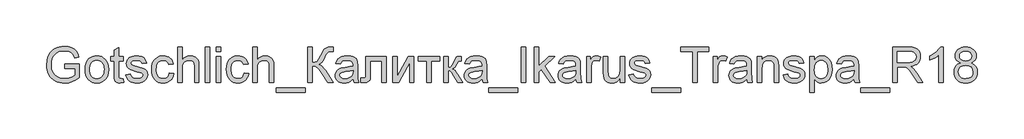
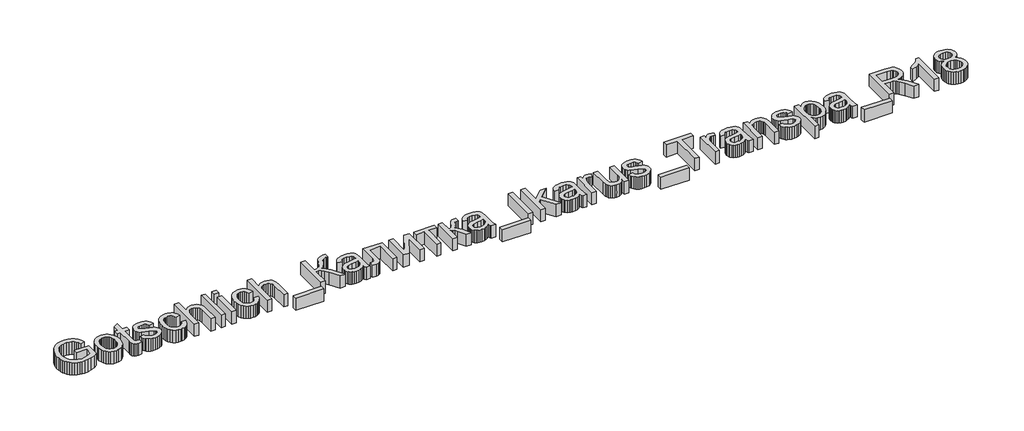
# One storey, part 2 of 6: 1 proxy.
"""IFC4 building model written with IfcOpenShell, lengths in millimetres."""

from ifc_helpers import new_model, si_unit, origin, origin_with_axes, place, context, project, spatial, polyline, outline, extrude, element, save

model = new_model("IFC4")

# Units and contexts
model_context = context("Model", 3, world=origin())
ifc_project = project(units=[si_unit("LENGTHUNIT", "METRE", prefix="MILLI")], contexts=[model_context])

# Site, building, storey
site = spatial("IfcSite", under=ifc_project)
building = spatial("IfcBuilding", under=site)
storey = spatial("IfcBuildingStorey", under=building, Name="Уровень 1", Elevation=0.0)

# Proxy
placement = place(None, origin())
element("IfcBuildingElementProxy", 1, Name="600 мм Arial", ObjectType="600 мм Arial", at=placement, inside=storey, context=model_context, shape_type="SweptSolid", body=[
    extrude(outline(polyline([(16245.4762202, -854.406138), (16245.4762202, -804.1779829), (16408.7177242, -804.1779829), (16408.7177242, -954.3719388), (16369.0477824, -981.9630884), (16328.1270418, -1001.7551398), (16286.0536043, -1013.6745164), (16242.9255717, -1017.647642), (16214.0744263, -1016.0688151), (16186.5783128, -1011.3323344), (16160.4372314, -1003.4381999), (16135.6511819, -992.3864116), (16113.0203079, -978.3425165), (16093.3447525, -961.4720613), (16076.6245158, -941.7750462), (16062.8595978, -919.251471), (16052.1082465, -894.6217714), (16044.4287099, -868.606383), (16039.8209879, -841.2053057), (16038.2850806, -812.4185396), (16044.4041844, -755.826026), (16052.0530642, -729.0104942), (16062.761496, -703.1821125), (16076.3394073, -679.4751836), (16092.5967258, -659.0240103), (16111.5334515, -641.8285928), (16133.1495844, -627.8889308), (16156.9760749, -617.1161197), (16182.5438736, -609.4212547), (16209.8529804, -604.8043356), (16238.9033953, -603.2653626), (16280.277857, -606.833818), (16317.4829894, -617.539184), (16348.8142727, -634.6089086), (16372.5671868, -657.2704395), (16390.1396835, -686.61516), (16402.9297142, -723.7344533), (16356.6256337, -736.7820014), (16346.2881497, -710.3067605), (16333.7188482, -690.3307681), (16317.090582, -675.2721318), (16294.5762039, -663.5489589), (16267.733081, -656.007378), (16238.1185803, -653.4935177), (16203.4518337, -656.2035817), (16173.8128076, -664.3337738), (16149.3118667, -676.8662871), (16130.0593756, -692.7833148), (16115.2827821, -711.2632537), (16104.2095341, -731.4845007), (16092.4373102, -769.4008716), (16088.5132356, -810.3584004), (16093.2343879, -858.3915263), (16107.3978447, -897.9143153), (16130.5744104, -928.6447246), (16162.3348893, -950.3007114), (16199.5032336, -963.139793), (16238.9033953, -967.4194869), (16273.6927693, -964.1943881), (16307.623752, -954.5190916), (16337.0910998, -941.1895006), (16358.4895692, -927.0015184), (16358.4895692, -854.406138), (16245.4762202, -854.406138)])), origin_with_axes(), (0.0, 0.0, 1.0), 150.0),
    extrude(outline(polyline([(16471.5029181, -863.8239171), (16474.2191135, -825.6071091), (16482.3676997, -792.6755392), (16495.9486767, -765.0292073), (16514.9620444, -742.6681133), (16534.1041709, -728.3758978), (16555.2328602, -718.1671724), (16578.3481122, -712.0419372), (16603.449927, -710.0001921), (16631.1606383, -712.4864613), (16656.2164679, -719.9452687), (16678.6174157, -732.3766145), (16698.3634818, -749.7804986), (16714.4797788, -771.5683097), (16725.9914196, -797.1514368), (16732.8984041, -826.5298798), (16735.2007322, -859.7036387), (16731.1295048, -910.4468286), (16718.9158226, -949.0744381), (16698.9153048, -978.0022256), (16671.4835707, -999.6459497), (16638.9014886, -1013.1472189), (16603.449927, -1017.647642), (16575.3345455, -1015.1705699), (16550.045724, -1007.7393536), (16527.5834626, -995.3539931), (16507.9477611, -978.0144884), (16492.0031423, -956.0151451), (16480.6141288, -929.6502687), (16473.7807208, -898.9198594), (16471.5029181, -863.8239171)]), holes=[polyline([(16521.7310732, -863.7258152), (16523.184207, -888.0888003), (16527.5436087, -909.1837671), (16534.8092781, -927.0107154), (16544.9812152, -941.5696454), (16557.354313, -952.878951), (16571.2234642, -960.9570265), (16586.5886689, -965.8038718), (16603.449927, -967.4194869), (16620.225346, -965.7946748), (16635.529237, -960.9202383), (16649.3616, -952.7961776), (16661.7224351, -941.4224926), (16671.8943722, -926.7194755), (16679.1600416, -908.6074186), (16683.5194433, -887.0863219), (16684.9725771, -862.1561853), (16683.5102462, -838.5657524), (16679.1232534, -818.0226087), (16671.8115988, -800.5267541), (16661.5752823, -786.0781887), (16649.168462, -774.7688831), (16635.345296, -766.6908076), (16620.1057843, -761.8439623), (16603.449927, -760.2283472), (16586.5886689, -761.8378309), (16571.2234642, -766.6662821), (16557.354313, -774.7137008), (16544.9812152, -785.9800869), (16534.8092781, -800.4960973), (16527.5436087, -818.2923888), (16523.184207, -839.3689614), (16521.7310732, -863.7258152)])]), origin_with_axes(), (0.0, 0.0, 1.0), 150.0),
    extrude(outline(polyline([(16898.4422362, -969.4796261), (16904.7207556, -1012.8406506), (16867.1477412, -1017.647642), (16843.0392077, -1015.5629773), (16825.0620409, -1009.3089834), (16812.3578493, -999.6704751), (16804.0682417, -987.4322674), (16799.506505, -966.4139428), (16797.9859261, -930.4350837), (16797.9859261, -766.5068666), (16760.3148098, -766.5068666), (16760.3148098, -716.2787115), (16797.9859261, -716.2787115), (16797.9859261, -644.5662479), (16848.2140811, -615.0375865), (16848.2140811, -716.2787115), (16898.4422362, -716.2787115), (16898.4422362, -766.5068666), (16848.2140811, -766.5068666), (16848.2140811, -928.9635557), (16850.8628315, -954.8624481), (16859.4467447, -964.0349725), (16876.5655202, -967.4194869), (16898.4422362, -969.4796261)])), origin_with_axes(), (0.0, 0.0, 1.0), 150.0),
    extrude(outline(polyline([(16929.8348331, -923.4698512), (16980.0629882, -917.1913318), (16987.9847138, -938.6756403), (17003.3131303, -954.4700407), (17026.1463395, -964.1821253), (17056.5824432, -967.4194869), (17086.6506649, -964.4519055), (17107.7916169, -955.5491612), (17120.2996048, -942.6487659), (17124.4689341, -927.6882314), (17120.2750793, -914.885938), (17107.6935151, -905.1248024), (17055.993832, -890.80193), (16980.3572938, -866.2274128), (16961.2151673, -853.8788405), (16947.3460161, -837.5326171), (16938.9215184, -818.2310751), (16936.1133525, -797.0165467), (16938.3696954, -777.5555892), (16945.1387241, -759.5906851), (16955.807302, -743.833073), (16969.7622923, -730.9939913), (17001.6944495, -716.1315587), (17022.5778841, -711.5330338), (17044.9083212, -710.0001921), (17077.6007679, -712.4650015), (17106.0257834, -719.8594296), (17128.883518, -731.4599752), (17144.8741221, -746.543137), (17155.4691235, -766.2248237), (17162.1400504, -791.6209441), (17111.9118953, -797.8994635), (17105.5720622, -782.0928005), (17093.0272862, -770.1856866), (17074.1549398, -762.7176821), (17048.8323958, -760.2283472), (17019.9904474, -762.6073175), (17000.7624818, -769.7442282), (16989.9467511, -780.044924), (16986.3415076, -791.9152497), (16992.3257214, -806.5324277), (17011.0631777, -817.6179385), (17054.3261003, -828.3110418), (17128.0496521, -851.9535913), (17147.5228724, -863.2598313), (17162.2872032, -878.7354006), (17171.5946176, -898.4293501), (17174.6970891, -922.3907307), (17171.0550574, -947.1614517), (17160.1289621, -970.4606447), (17142.3357363, -990.4611625), (17118.0923128, -1005.3358579), (17088.808906, -1014.5696959), (17055.8957302, -1017.647642), (17028.8625349, -1016.1638513), (17005.2506421, -1011.7124791), (16985.060052, -1004.2935256), (16968.2907644, -993.9069906), (16954.5932914, -980.6019251), (16943.6181452, -964.42738), (16935.3653258, -945.3833554), (16929.8348331, -923.4698512)])), origin_with_axes(), (0.0, 0.0, 1.0), 150.0),
    extrude(outline(polyline([(17419.5593451, -904.6342931), (17469.7875002, -910.9128124), (17464.3244526, -934.61361), (17455.7834589, -955.5859494), (17444.1645192, -973.8298307), (17429.4676335, -989.3452538), (17412.3120698, -1001.7275486), (17393.3170961, -1010.5720449), (17372.4827125, -1015.8787427), (17349.8089188, -1017.647642), (17321.638355, -1015.1797669), (17296.3801904, -1007.7761418), (17274.0344249, -995.4367665), (17254.6010585, -978.1616412), (17238.8710375, -956.2757281), (17227.6353082, -930.1039899), (17220.8938707, -899.6464263), (17218.6467248, -864.9030376), (17222.4849603, -820.2053752), (17233.9996667, -781.4674011), (17253.3747852, -750.1851687), (17280.7942565, -727.8547316), (17313.5970678, -714.463827), (17349.1222058, -710.0001921), (17371.4066576, -711.5330338), (17391.5635253, -716.1315587), (17409.5928087, -723.795767), (17425.494508, -734.5256585), (17438.9988429, -748.0759786), (17449.8360333, -764.2014728), (17458.0060793, -782.9021409), (17463.5089808, -804.1779829), (17413.2808257, -810.4565023), (17404.169615, -788.5429981), (17389.9816327, -772.8344369), (17371.5016938, -763.3798696), (17349.5146132, -760.2283472), (17332.4479543, -761.779583), (17317.0551585, -766.4332902), (17303.3362258, -774.1894689), (17291.2911561, -785.0481192), (17281.4840353, -799.2606269), (17274.478949, -817.0783782), (17270.2758972, -838.5013731), (17268.8748799, -863.5296115), (17274.3563216, -910.6062441), (17281.2081238, -928.5435571), (17290.8006468, -942.7468678), (17302.6065932, -953.5411386), (17316.0986653, -961.2513321), (17331.2768633, -965.8774482), (17348.1411871, -967.4194869), (17374.1504442, -963.5689887), (17395.4753372, -952.017494), (17410.9876946, -932.4706974), (17419.5593451, -904.6342931)])), origin_with_axes(), (0.0, 0.0, 1.0), 150.0),
    extrude(outline(polyline([(17513.7371359, -1011.3691226), (17513.7371359, -609.543882), (17563.965291, -609.543882), (17563.965291, -757.2852913), (17582.414573, -736.5980604), (17603.1324607, -721.8214669), (17626.118954, -712.9555108), (17651.374053, -710.0001921), (17681.7120549, -713.225291), (17707.7826256, -722.9005874), (17728.3104409, -738.2657921), (17742.0201766, -758.5606155), (17749.7456985, -786.4460707), (17752.3208725, -824.5831709), (17752.3208725, -1011.3691226), (17702.0927174, -1011.3691226), (17702.0927174, -829.7825698), (17698.0950664, -798.3409219), (17686.1021134, -776.8075625), (17666.7760459, -764.373151), (17640.7790515, -760.2283472), (17619.5522604, -763.0242504), (17599.625319, -771.4119599), (17583.1196802, -784.5821353), (17572.1567967, -801.7254363), (17566.0131674, -824.5095945), (17563.965291, -854.6023417), (17563.965291, -1011.3691226), (17513.7371359, -1011.3691226)])), origin_with_axes(), (0.0, 0.0, 1.0), 150.0),
    extrude(outline(polyline([(17821.3845857, -1011.3691226), (17821.3845857, -609.543882), (17871.6127408, -609.543882), (17871.6127408, -1011.3691226), (17821.3845857, -1011.3691226)])), origin_with_axes(), (0.0, 0.0, 1.0), 150.0),
    extrude(outline(polyline([(17946.9549734, -659.7720371), (17946.9549734, -609.543882), (17997.1831285, -609.543882), (17997.1831285, -659.7720371), (17946.9549734, -659.7720371)])), origin_with_axes(), (0.0, 0.0, 1.0), 150.0),
    extrude(outline(polyline([(17946.9549734, -1011.3691226), (17946.9549734, -716.2787115), (17997.1831285, -716.2787115), (17997.1831285, -1011.3691226), (17946.9549734, -1011.3691226)])), origin_with_axes(), (0.0, 0.0, 1.0), 150.0),
    extrude(outline(polyline([(18260.8809426, -904.6342931), (18311.1090977, -910.9128124), (18305.6460501, -934.61361), (18297.1050564, -955.5859494), (18285.4861167, -973.8298307), (18270.789231, -989.3452538), (18253.6336673, -1001.7275486), (18234.6386936, -1010.5720449), (18213.80431, -1015.8787427), (18191.1305163, -1017.647642), (18162.9599526, -1015.1797669), (18137.7017879, -1007.7761418), (18115.3560224, -995.4367665), (18095.922656, -978.1616412), (18080.192635, -956.2757281), (18068.9569057, -930.1039899), (18062.2154682, -899.6464263), (18059.9683223, -864.9030376), (18063.8065578, -820.2053752), (18075.3212643, -781.4674011), (18094.6963827, -750.1851687), (18122.115854, -727.8547316), (18154.9186653, -714.463827), (18190.4438033, -710.0001921), (18212.7282551, -711.5330338), (18232.8851228, -716.1315587), (18250.9144062, -723.795767), (18266.8161055, -734.5256585), (18280.3204404, -748.0759786), (18291.1576308, -764.2014728), (18299.3276768, -782.9021409), (18304.8305783, -804.1779829), (18254.6024232, -810.4565023), (18245.4912125, -788.5429981), (18231.3032302, -772.8344369), (18212.8232913, -763.3798696), (18190.8362107, -760.2283472), (18173.7695518, -761.779583), (18158.376756, -766.4332902), (18144.6578233, -774.1894689), (18132.6127536, -785.0481192), (18122.8056328, -799.2606269), (18115.8005465, -817.0783782), (18111.5974947, -838.5013731), (18110.1964774, -863.5296115), (18115.6779191, -910.6062441), (18122.5297213, -928.5435571), (18132.1222443, -942.7468678), (18143.9281907, -953.5411386), (18157.4202628, -961.2513321), (18172.5984608, -965.8774482), (18189.4627846, -967.4194869), (18215.4720417, -963.5689887), (18236.7969347, -952.017494), (18252.3092921, -932.4706974), (18260.8809426, -904.6342931)])), origin_with_axes(), (0.0, 0.0, 1.0), 150.0),
    extrude(outline(polyline([(18355.0587334, -1011.3691226), (18355.0587334, -609.543882), (18405.2868885, -609.543882), (18405.2868885, -757.2852913), (18423.7361705, -736.5980604), (18444.4540582, -721.8214669), (18467.4405515, -712.9555108), (18492.6956505, -710.0001921), (18523.0336524, -713.225291), (18549.1042231, -722.9005874), (18569.6320384, -738.2657921), (18583.3417741, -758.5606155), (18591.067296, -786.4460707), (18593.64247, -824.5831709), (18593.64247, -1011.3691226), (18543.4143149, -1011.3691226), (18543.4143149, -829.7825698), (18539.4166639, -798.3409219), (18527.4237109, -776.8075625), (18508.0976434, -764.373151), (18482.1006491, -760.2283472), (18460.8738579, -763.0242504), (18440.9469165, -771.4119599), (18424.4412777, -784.5821353), (18413.4783942, -801.7254363), (18407.3347649, -824.5095945), (18405.2868885, -854.6023417), (18405.2868885, -1011.3691226), (18355.0587334, -1011.3691226)])), origin_with_axes(), (0.0, 0.0, 1.0), 150.0),
    extrude(outline(polyline([(18618.7565475, -1124.3824715), (18618.7565475, -1074.1543164), (18945.2395555, -1074.1543164), (18945.2395555, -1124.3824715), (18618.7565475, -1124.3824715)])), origin_with_axes(), (0.0, 0.0, 1.0), 150.0),
    extrude(outline(polyline([(18976.6321524, -609.543882), (19026.8603075, -609.543882), (19026.8603075, -785.3424248), (19060.8648666, -782.0192241), (19083.0236254, -772.049622), (19100.9394786, -748.5910134), (19122.2153207, -704.8007933), (19149.9290976, -648.6374753), (19163.2954768, -633.4194235), (19181.3216946, -620.8255965), (19202.7201639, -612.3643106), (19226.203298, -609.543882), (19259.1655247, -610.1324932), (19259.1655247, -660.3606483), (19248.0800139, -660.0663427), (19236.9945032, -659.7720371), (19213.9896157, -662.7886694), (19197.753757, -671.8385665), (19183.7742412, -690.8458029), (19167.9307899, -723.5382496), (19148.4943578, -764.2505237), (19132.3688637, -786.5196471), (19116.4640988, -798.2428201), (19097.6898543, -807.3172426), (19117.1446805, -815.5945875), (19136.4646166, -830.0278244), (19155.6496627, -850.6169534), (19174.6998186, -877.3619745), (19259.1655247, -1011.3691226), (19200.8930167, -1011.3691226), (19129.4748587, -898.1595699), (19101.8959718, -861.849617), (19079.1976527, -839.0531961), (19055.9842988, -827.0234548), (19026.8603075, -823.0135411), (19026.8603075, -1011.3691226), (18976.6321524, -1011.3691226), (18976.6321524, -609.543882)])), origin_with_axes(), (0.0, 0.0, 1.0), 150.0),
    extrude(outline(polyline([(19485.1922226, -973.6980063), (19461.1940537, -994.2748725), (19436.4846464, -1007.7393536), (19410.4999148, -1015.1705699), (19382.6757732, -1017.647642), (19360.3116136, -1016.1577199), (19340.7004376, -1011.6879537), (19323.8422452, -1004.2383433), (19309.7370363, -993.8088887), (19298.5994089, -981.0617776), (19290.6439608, -966.6591974), (19285.8706919, -950.6011484), (19284.2796023, -932.8876303), (19286.683098, -912.0655094), (19293.8935851, -893.1563748), (19305.0158841, -876.969567), (19319.1548154, -864.3144264), (19335.7708189, -854.7494945), (19354.3243341, -847.833313), (19397.7834605, -840.2794694), (19449.139787, -832.3332183), (19484.897917, -823.0135411), (19485.1922226, -811.8299284), (19481.7341318, -789.4136522), (19471.3598595, -774.7474233), (19448.1587684, -763.8581162), (19415.8342037, -760.2283472), (19385.9131348, -762.6441057), (19365.0174375, -769.891381), (19350.7681415, -783.2945483), (19340.7862767, -804.1779829), (19290.5581217, -797.8994635), (19299.2769249, -770.4309412), (19312.2876848, -748.8485308), (19330.8044119, -732.342892), (19356.0411168, -720.1046843), (19386.9064162, -712.5263152), (19422.3089269, -710.0001921), (19456.264435, -712.2320096), (19483.1811343, -718.9274619), (19503.4759577, -728.9951658), (19517.5658381, -741.3437381), (19526.9100408, -756.6108409), (19532.967831, -775.4341364), (19535.4203776, -819.383772), (19535.4203776, -881.8746603), (19537.9710261, -969.1362695), (19547.9774164, -1011.3691226), (19497.7492613, -1011.3691226), (19489.7049084, -993.9069906), (19485.1922226, -973.6980063)]), holes=[polyline([(19485.1922226, -873.2416961), (19451.4451809, -881.6048802), (19404.1600818, -888.643689), (19360.9462101, -896.7861438), (19349.7012837, -902.3534247), (19341.3748879, -910.0298957), (19336.22454, -919.2269455), (19334.5077573, -929.3559631), (19338.247891, -944.2919721), (19349.4682918, -956.5301798), (19367.9237052, -964.6971601), (19393.3688766, -967.4194869), (19420.3468896, -964.4151173), (19444.1856428, -955.4020084), (19463.5117103, -942.1214684), (19476.9516659, -926.3148053), (19482.9113542, -910.0298957), (19484.897917, -887.4664666), (19485.1922226, -873.2416961)])]), origin_with_axes(), (0.0, 0.0, 1.0), 150.0),
    extrude(outline(polyline([(19629.5981684, -716.2787115), (19855.6248662, -716.2787115), (19855.6248662, -1011.074817), (19805.3967112, -1011.074817), (19805.3967112, -766.5068666), (19679.8263235, -766.5068666), (19679.8263235, -907.2830434), (19676.4418091, -972.2264783), (19670.1019761, -986.9294954), (19657.8515056, -999.6459497), (19639.2612021, -1008.4383294), (19613.9018699, -1011.3691226), (19573.0914939, -1008.8184741), (19573.0914939, -961.1409675), (19595.5568211, -961.1409675), (19618.267403, -958.0507588), (19627.3418255, -948.2405722), (19629.5981684, -904.4380893), (19629.5981684, -716.2787115)])), origin_with_axes(), (0.0, 0.0, 1.0), 150.0),
    extrude(outline(polyline([(19930.9670989, -716.2787115), (19981.1952539, -716.2787115), (19981.1952539, -941.3243907), (20104.6074006, -716.2787115), (20169.5508355, -716.2787115), (20169.5508355, -1011.3691226), (20119.3226804, -1011.3691226), (20119.3226804, -787.6968695), (19996.6953487, -1011.3691226), (19930.9670989, -1011.3691226), (19930.9670989, -716.2787115)])), origin_with_axes(), (0.0, 0.0, 1.0), 150.0),
    extrude(outline(polyline([(20219.7789905, -716.2787115), (20458.3627271, -716.2787115), (20458.3627271, -766.5068666), (20364.1849364, -766.5068666), (20364.1849364, -1011.3691226), (20313.9567813, -1011.3691226), (20313.9567813, -766.5068666), (20219.7789905, -766.5068666), (20219.7789905, -716.2787115)])), origin_with_axes(), (0.0, 0.0, 1.0), 150.0),
    extrude(outline(polyline([(20502.3123628, -716.2787115), (20552.5405179, -716.2787115), (20552.5405179, -841.8490992), (20572.9702314, -839.5927563), (20586.1894577, -832.8237276), (20597.8881052, -815.1653918), (20613.7560819, -780.2411278), (20636.6628675, -734.869015), (20646.105172, -725.7087533), (20656.8718517, -720.1046843), (20693.6110003, -716.2787115), (20703.2249831, -716.2787115), (20703.2249831, -766.8011722), (20689.6869257, -766.5068666), (20673.9906272, -767.8312418), (20665.1614594, -771.8043673), (20647.8955311, -804.864696), (20637.2882669, -826.9008275), (20627.6374959, -840.6228259), (20615.9511111, -849.7830876), (20599.2370058, -858.1340089), (20615.1540335, -865.2034745), (20630.9239083, -877.6808055), (20646.5466304, -895.5660019), (20662.0221997, -918.8590635), (20715.7820219, -1011.3691226), (20658.6867362, -1011.3691226), (20606.0060345, -920.8211008), (20591.7812641, -896.7248302), (20579.5185309, -882.5123224), (20567.1331704, -875.5593527), (20552.5405179, -873.2416961), (20552.5405179, -1011.3691226), (20502.3123628, -1011.3691226), (20502.3123628, -716.2787115)])), origin_with_axes(), (0.0, 0.0, 1.0), 150.0),
    extrude(outline(polyline([(20935.5302004, -973.6980063), (20911.5320315, -994.2748725), (20886.8226242, -1007.7393536), (20860.8378926, -1015.1705699), (20833.013751, -1017.647642), (20810.6495914, -1016.1577199), (20791.0384154, -1011.6879537), (20774.180223, -1004.2383433), (20760.0750141, -993.8088887), (20748.9373867, -981.0617776), (20740.9819386, -966.6591974), (20736.2086697, -950.6011484), (20734.6175801, -932.8876303), (20737.0210758, -912.0655094), (20744.2315629, -893.1563748), (20755.3538618, -876.969567), (20769.4927932, -864.3144264), (20786.1087966, -854.7494945), (20804.6623119, -847.833313), (20848.1214383, -840.2794694), (20899.4777648, -832.3332183), (20935.2358948, -823.0135411), (20935.5302004, -811.8299284), (20932.0721096, -789.4136522), (20921.6978373, -774.7474233), (20898.4967462, -763.8581162), (20866.1721815, -760.2283472), (20836.2511126, -762.6441057), (20815.3554153, -769.891381), (20801.1061193, -783.2945483), (20791.1242545, -804.1779829), (20740.8960994, -797.8994635), (20749.6149027, -770.4309412), (20762.6256626, -748.8485308), (20781.1423897, -732.342892), (20806.3790946, -720.1046843), (20837.244394, -712.5263152), (20872.6469046, -710.0001921), (20906.6024128, -712.2320096), (20933.5191121, -718.9274619), (20953.8139355, -728.9951658), (20967.9038159, -741.3437381), (20977.2480186, -756.6108409), (20983.3058088, -775.4341364), (20985.7583554, -819.383772), (20985.7583554, -881.8746603), (20988.3090039, -969.1362695), (20998.3153942, -1011.3691226), (20948.0872391, -1011.3691226), (20940.0428862, -993.9069906), (20935.5302004, -973.6980063)]), holes=[polyline([(20935.5302004, -873.2416961), (20901.7831587, -881.6048802), (20854.4980595, -888.643689), (20811.2841878, -896.7861438), (20800.0392615, -902.3534247), (20791.7128657, -910.0298957), (20786.5625178, -919.2269455), (20784.8457351, -929.3559631), (20788.5858687, -944.2919721), (20799.8062696, -956.5301798), (20818.261683, -964.6971601), (20843.7068544, -967.4194869), (20870.6848673, -964.4151173), (20894.5236206, -955.4020084), (20913.8496881, -942.1214684), (20927.2896437, -926.3148053), (20933.249332, -910.0298957), (20935.2358948, -887.4664666), (20935.5302004, -873.2416961)])]), origin_with_axes(), (0.0, 0.0, 1.0), 150.0),
    extrude(outline(polyline([(21010.872433, -1124.3824715), (21010.872433, -1074.1543164), (21337.355441, -1074.1543164), (21337.355441, -1124.3824715), (21010.872433, -1124.3824715)])), origin_with_axes(), (0.0, 0.0, 1.0), 150.0),
    extrude(outline(polyline([(21375.0265573, -1011.3691226), (21375.0265573, -609.543882), (21425.2547123, -609.543882), (21425.2547123, -1011.3691226), (21375.0265573, -1011.3691226)])), origin_with_axes(), (0.0, 0.0, 1.0), 150.0),
    extrude(outline(polyline([(21519.4325031, -1011.3691226), (21519.4325031, -609.543882), (21569.6606582, -609.543882), (21569.6606582, -825.4660877), (21682.2815996, -716.2787115), (21751.7377203, -716.2787115), (21637.7433527, -826.8395138), (21758.0162397, -1011.3691226), (21699.3513242, -1011.3691226), (21601.7399682, -861.7637779), (21569.6606582, -892.8620692), (21569.6606582, -1011.3691226), (21519.4325031, -1011.3691226)])), origin_with_axes(), (0.0, 0.0, 1.0), 150.0),
    extrude(outline(polyline([(21990.3214569, -973.6980063), (21966.3232881, -994.2748725), (21941.6138808, -1007.7393536), (21915.6291492, -1015.1705699), (21887.8050076, -1017.647642), (21865.440848, -1016.1577199), (21845.829672, -1011.6879537), (21828.9714795, -1004.2383433), (21814.8662707, -993.8088887), (21803.7286433, -981.0617776), (21795.7731951, -966.6591974), (21790.9999263, -950.6011484), (21789.4088366, -932.8876303), (21791.8123323, -912.0655094), (21799.0228194, -893.1563748), (21810.1451184, -876.969567), (21824.2840498, -864.3144264), (21840.9000532, -854.7494945), (21859.4535685, -847.833313), (21902.9126949, -840.2794694), (21954.2690214, -832.3332183), (21990.0271513, -823.0135411), (21990.3214569, -811.8299284), (21986.8633662, -789.4136522), (21976.4890939, -774.7474233), (21953.2880027, -763.8581162), (21920.9634381, -760.2283472), (21891.0423692, -762.6441057), (21870.1466718, -769.891381), (21855.8973759, -783.2945483), (21845.9155111, -804.1779829), (21795.687356, -797.8994635), (21804.4061593, -770.4309412), (21817.4169192, -748.8485308), (21835.9336463, -732.342892), (21861.1703511, -720.1046843), (21892.0356505, -712.5263152), (21927.4381612, -710.0001921), (21961.3936694, -712.2320096), (21988.3103687, -718.9274619), (22008.6051921, -728.9951658), (22022.6950725, -741.3437381), (22032.0392752, -756.6108409), (22038.0970654, -775.4341364), (22040.549612, -819.383772), (22040.549612, -881.8746603), (22043.1002605, -969.1362695), (22053.1066508, -1011.3691226), (22002.8784957, -1011.3691226), (21994.8341427, -993.9069906), (21990.3214569, -973.6980063)]), holes=[polyline([(21990.3214569, -873.2416961), (21956.5744152, -881.6048802), (21909.2893161, -888.643689), (21866.0754444, -896.7861438), (21854.8305181, -902.3534247), (21846.5041223, -910.0298957), (21841.3537743, -919.2269455), (21839.6369917, -929.3559631), (21843.3771253, -944.2919721), (21854.5975262, -956.5301798), (21873.0529396, -964.6971601), (21898.4981109, -967.4194869), (21925.4761239, -964.4151173), (21949.3148772, -955.4020084), (21968.6409447, -942.1214684), (21982.0809002, -926.3148053), (21988.0405886, -910.0298957), (21990.0271513, -887.4664666), (21990.3214569, -873.2416961)])]), origin_with_axes(), (0.0, 0.0, 1.0), 150.0),
    extrude(outline(polyline([(22109.6133252, -1011.3691226), (22109.6133252, -716.2787115), (22153.5629609, -716.2787115), (22153.5629609, -759.9340416), (22169.7988196, -734.6237604), (22184.7593541, -719.7122768), (22199.7689395, -712.4282133), (22216.151951, -710.0001921), (22241.1679267, -713.8752158), (22266.5763098, -725.5002869), (22249.8008909, -770.5290431), (22232.1425551, -762.8035212), (22214.4842193, -760.2283472), (22199.4868966, -762.7054193), (22186.0837293, -770.1366356), (22175.2557359, -781.9579104), (22167.9839351, -797.6051579), (22161.877094, -825.6622914), (22159.8414803, -856.2700734), (22159.8414803, -1011.3691226), (22109.6133252, -1011.3691226)])), origin_with_axes(), (0.0, 0.0, 1.0), 150.0),
    extrude(outline(polyline([(22486.3244883, -1011.3691226), (22486.3244883, -960.6504582), (22468.1511177, -985.5867261), (22446.9856403, -1003.398346), (22422.8280559, -1014.085318), (22395.6783647, -1017.647642), (22371.214212, -1015.1460444), (22348.4423165, -1007.6412517), (22329.3369782, -996.3595372), (22315.8724972, -982.5271742), (22306.8103374, -965.7272297), (22300.9119627, -945.5427709), (22297.9689068, -898.846283), (22297.9689068, -716.2787115), (22348.1970618, -716.2787115), (22348.1970618, -875.2037334), (22351.2382197, -926.4129072), (22358.5590714, -943.4948945), (22371.1038474, -956.4811289), (22388.0386819, -964.6848974), (22408.529709, -967.4194869), (22430.1979586, -964.6235837), (22450.4682565, -956.2358742), (22467.1823618, -943.0289106), (22478.1820335, -925.775245), (22484.2888746, -902.1449582), (22486.3244883, -869.8081308), (22486.3244883, -716.2787115), (22536.5526434, -716.2787115), (22536.5526434, -1011.3691226), (22486.3244883, -1011.3691226)])), origin_with_axes(), (0.0, 0.0, 1.0), 150.0),
    extrude(outline(polyline([(22586.7807984, -923.4698512), (22637.0089535, -917.1913318), (22644.9306791, -938.6756403), (22660.2590956, -954.4700407), (22683.0923048, -964.1821253), (22713.5284085, -967.4194869), (22743.5966302, -964.4519055), (22764.7375822, -955.5491612), (22777.2455701, -942.6487659), (22781.4148994, -927.6882314), (22777.2210446, -914.885938), (22764.6394804, -905.1248024), (22712.9397973, -890.80193), (22637.3032591, -866.2274128), (22618.1611326, -853.8788405), (22604.2919814, -837.5326171), (22595.8674837, -818.2310751), (22593.0593178, -797.0165467), (22595.3156607, -777.5555892), (22602.0846894, -759.5906851), (22612.7532673, -743.833073), (22626.7082576, -730.9939913), (22658.6404148, -716.1315587), (22679.5238494, -711.5330338), (22701.8542865, -710.0001921), (22734.5467332, -712.4650015), (22762.9717487, -719.8594296), (22785.8294833, -731.4599752), (22801.8200874, -746.543137), (22812.4150888, -766.2248237), (22819.0860157, -791.6209441), (22768.8578606, -797.8994635), (22762.5180275, -782.0928005), (22749.9732515, -770.1856866), (22731.1009051, -762.7176821), (22705.7783611, -760.2283472), (22676.9364127, -762.6073175), (22657.7084471, -769.7442282), (22646.8927164, -780.044924), (22643.2874729, -791.9152497), (22649.2716867, -806.5324277), (22668.009143, -817.6179385), (22711.2720656, -828.3110418), (22784.9956174, -851.9535913), (22804.4688377, -863.2598313), (22819.2331685, -878.7354006), (22828.5405829, -898.4293501), (22831.6430544, -922.3907307), (22828.0010227, -947.1614517), (22817.0749274, -970.4606447), (22799.2817016, -990.4611625), (22775.0382781, -1005.3358579), (22745.7548713, -1014.5696959), (22712.8416955, -1017.647642), (22685.8085002, -1016.1638513), (22662.1966074, -1011.7124791), (22642.0060173, -1004.2935256), (22625.2367297, -993.9069906), (22611.5392567, -980.6019251), (22600.5641105, -964.42738), (22592.3112911, -945.3833554), (22586.7807984, -923.4698512)])), origin_with_axes(), (0.0, 0.0, 1.0), 150.0),
    extrude(outline(polyline([(22844.2000932, -1124.3824715), (22844.2000932, -1074.1543164), (23170.6831012, -1074.1543164), (23170.6831012, -1124.3824715), (22844.2000932, -1124.3824715)])), origin_with_axes(), (0.0, 0.0, 1.0), 150.0),
    extrude(outline(polyline([(23302.5320083, -1011.3691226), (23302.5320083, -659.7720371), (23170.6831012, -659.7720371), (23170.6831012, -609.543882), (23484.6090704, -609.543882), (23484.6090704, -659.7720371), (23352.7601633, -659.7720371), (23352.7601633, -1011.3691226), (23302.5320083, -1011.3691226)])), origin_with_axes(), (0.0, 0.0, 1.0), 150.0),
    extrude(outline(polyline([(23534.8372255, -1011.3691226), (23534.8372255, -716.2787115), (23578.7868612, -716.2787115), (23578.7868612, -759.9340416), (23595.0227199, -734.6237604), (23609.9832544, -719.7122768), (23624.9928398, -712.4282133), (23641.3758513, -710.0001921), (23666.3918269, -713.8752158), (23691.8002101, -725.5002869), (23675.0247911, -770.5290431), (23657.3664553, -762.8035212), (23639.7081196, -760.2283472), (23624.7107969, -762.7054193), (23611.3076295, -770.1366356), (23600.4796361, -781.9579104), (23593.2078354, -797.6051579), (23587.1009943, -825.6622914), (23585.0653805, -856.2700734), (23585.0653805, -1011.3691226), (23534.8372255, -1011.3691226)])), origin_with_axes(), (0.0, 0.0, 1.0), 150.0),
    extrude(outline(polyline([(23911.5483885, -973.6980063), (23887.5502197, -994.2748725), (23862.8408124, -1007.7393536), (23836.8560808, -1015.1705699), (23809.0319392, -1017.647642), (23786.6677796, -1016.1577199), (23767.0566036, -1011.6879537), (23750.1984111, -1004.2383433), (23736.0932023, -993.8088887), (23724.9555749, -981.0617776), (23717.0001268, -966.6591974), (23712.2268579, -950.6011484), (23710.6357682, -932.8876303), (23713.0392639, -912.0655094), (23720.249751, -893.1563748), (23731.37205, -876.969567), (23745.5109814, -864.3144264), (23762.1269848, -854.7494945), (23780.6805001, -847.833313), (23824.1396265, -840.2794694), (23875.495953, -832.3332183), (23911.2540829, -823.0135411), (23911.5483885, -811.8299284), (23908.0902978, -789.4136522), (23897.7160255, -774.7474233), (23874.5149344, -763.8581162), (23842.1903697, -760.2283472), (23812.2693008, -762.6441057), (23791.3736034, -769.891381), (23777.1243075, -783.2945483), (23767.1424427, -804.1779829), (23716.9142876, -797.8994635), (23725.6330909, -770.4309412), (23738.6438508, -748.8485308), (23757.1605779, -732.342892), (23782.3972828, -720.1046843), (23813.2625822, -712.5263152), (23848.6650928, -710.0001921), (23882.620601, -712.2320096), (23909.5373003, -718.9274619), (23929.8321237, -728.9951658), (23943.9220041, -741.3437381), (23953.2662068, -756.6108409), (23959.323997, -775.4341364), (23961.7765436, -819.383772), (23961.7765436, -881.8746603), (23964.3271921, -969.1362695), (23974.3335824, -1011.3691226), (23924.1054273, -1011.3691226), (23916.0610743, -993.9069906), (23911.5483885, -973.6980063)]), holes=[polyline([(23911.5483885, -873.2416961), (23877.8013468, -881.6048802), (23830.5162477, -888.643689), (23787.302376, -896.7861438), (23776.0574497, -902.3534247), (23767.7310539, -910.0298957), (23762.580706, -919.2269455), (23760.8639233, -929.3559631), (23764.6040569, -944.2919721), (23775.8244578, -956.5301798), (23794.2798712, -964.6971601), (23819.7250425, -967.4194869), (23846.7030555, -964.4151173), (23870.5418088, -955.4020084), (23889.8678763, -942.1214684), (23903.3078318, -926.3148053), (23909.2675202, -910.0298957), (23911.2540829, -887.4664666), (23911.5483885, -873.2416961)])]), origin_with_axes(), (0.0, 0.0, 1.0), 150.0),
    extrude(outline(polyline([(24030.8402568, -1011.3691226), (24030.8402568, -716.2787115), (24081.0684119, -716.2787115), (24081.0684119, -757.481495), (24098.5182812, -736.708425), (24119.4752922, -721.8705179), (24143.9394449, -712.9677736), (24171.9107393, -710.0001921), (24196.6691975, -712.3914251), (24219.3429912, -719.565124), (24238.2521257, -730.6261093), (24251.7166067, -744.6792016), (24260.852343, -761.6876125), (24266.7752431, -781.6145539), (24269.4239934, -830.1749772), (24269.4239934, -1011.3691226), (24219.1958384, -1011.3691226), (24219.1958384, -836.9440059), (24217.7488359, -810.9715371), (24213.4078283, -792.5038609), (24205.4002635, -779.2723718), (24192.9535894, -769.0084642), (24176.9997735, -762.4233765), (24158.4707837, -760.2283472), (24129.0524868, -765.157966), (24103.9751975, -779.9468222), (24093.9534788, -792.019483), (24086.7951083, -808.5189905), (24082.500086, -829.4453446), (24081.0684119, -854.7985454), (24081.0684119, -1011.3691226), (24030.8402568, -1011.3691226)])), origin_with_axes(), (0.0, 0.0, 1.0), 150.0),
    extrude(outline(polyline([(24319.6521485, -923.4698512), (24369.8803036, -917.1913318), (24377.8020292, -938.6756403), (24393.1304457, -954.4700407), (24415.9636549, -964.1821253), (24446.3997586, -967.4194869), (24476.4679803, -964.4519055), (24497.6089323, -955.5491612), (24510.1169202, -942.6487659), (24514.2862494, -927.6882314), (24510.0923947, -914.885938), (24497.5108305, -905.1248024), (24445.8111474, -890.80193), (24370.1746092, -866.2274128), (24351.0324827, -853.8788405), (24337.1633315, -837.5326171), (24328.7388338, -818.2310751), (24325.9306679, -797.0165467), (24328.1870108, -777.5555892), (24334.9560395, -759.5906851), (24345.6246174, -743.833073), (24359.5796077, -730.9939913), (24391.5117649, -716.1315587), (24412.3951995, -711.5330338), (24434.7256366, -710.0001921), (24467.4180832, -712.4650015), (24495.8430987, -719.8594296), (24518.7008334, -731.4599752), (24534.6914374, -746.543137), (24545.2864389, -766.2248237), (24551.9573657, -791.6209441), (24501.7292107, -797.8994635), (24495.3893776, -782.0928005), (24482.8446016, -770.1856866), (24463.9722552, -762.7176821), (24438.6497112, -760.2283472), (24409.8077628, -762.6073175), (24390.5797972, -769.7442282), (24379.7640665, -780.044924), (24376.158823, -791.9152497), (24382.1430368, -806.5324277), (24400.8804931, -817.6179385), (24444.1434157, -828.3110418), (24517.8669675, -851.9535913), (24537.3401878, -863.2598313), (24552.1045185, -878.7354006), (24561.411933, -898.4293501), (24564.5144045, -922.3907307), (24560.8723728, -947.1614517), (24549.9462775, -970.4606447), (24532.1530517, -990.4611625), (24507.9096282, -1005.3358579), (24478.6262214, -1014.5696959), (24445.7130455, -1017.647642), (24418.6798503, -1016.1638513), (24395.0679575, -1011.7124791), (24374.8773674, -1004.2935256), (24358.1080797, -993.9069906), (24344.4106068, -980.6019251), (24333.4354606, -964.42738), (24325.1826412, -945.3833554), (24319.6521485, -923.4698512)])), origin_with_axes(), (0.0, 0.0, 1.0), 150.0),
    extrude(outline(polyline([(24621.021079, -1124.3824715), (24621.021079, -716.2787115), (24671.249234, -716.2787115), (24671.249234, -765.5258479), (24687.6322456, -741.2333735), (24705.9772944, -723.8816061), (24727.363501, -713.4705456), (24752.869986, -710.0001921), (24786.8377569, -714.8562345), (24816.5380967, -729.4243615), (24840.7202065, -752.8216564), (24858.1332876, -784.1652024), (24868.6547127, -821.1741311), (24872.1618543, -861.5675742), (24868.2009915, -904.5239285), (24856.3184031, -942.9430715), (24836.8942337, -974.8752287), (24810.3086282, -998.3706254), (24779.345227, -1012.8283878), (24746.7876704, -1017.647642), (24723.6969438, -1014.4225432), (24703.0832894, -1004.7472467), (24685.4372163, -990.1423315), (24671.249234, -972.1283764), (24671.249234, -1124.3824715), (24621.021079, -1124.3824715)]), holes=[polyline([(24671.249234, -866.1783618), (24676.6816248, -911.207118), (24683.4721133, -928.6447246), (24692.9787972, -942.6978168), (24717.026017, -961.2390694), (24730.7878693, -965.8743825), (24745.7085499, -967.4194869), (24760.8438283, -965.8192002), (24774.8570666, -961.0183402), (24787.7482649, -953.0169068), (24799.517423, -941.8149), (24809.3245439, -927.2529044), (24816.3296302, -909.1715043), (24820.532682, -887.5706998), (24821.9336993, -862.4504909), (24816.4645203, -817.6669894), (24809.6280465, -800.0944928), (24800.0569833, -785.7348322), (24776.0465517, -766.6049685), (24762.4410493, -761.8225025), (24747.768689, -760.2283472), (24733.142314, -761.9236701), (24719.3804617, -767.0096387), (24694.4503252, -787.353513), (24684.2998478, -802.4520032), (24677.0495068, -820.6223081), (24672.6993022, -841.8644276), (24671.249234, -866.1783618)])]), origin_with_axes(), (0.0, 0.0, 1.0), 150.0),
    extrude(outline(polyline([(25117.0241103, -973.6980063), (25093.0259415, -994.2748725), (25068.3165342, -1007.7393536), (25042.3318026, -1015.1705699), (25014.507661, -1017.647642), (24992.1435014, -1016.1577199), (24972.5323254, -1011.6879537), (24955.6741329, -1004.2383433), (24941.5689241, -993.8088887), (24930.4312967, -981.0617776), (24922.4758485, -966.6591974), (24917.7025797, -950.6011484), (24916.11149, -932.8876303), (24918.5149857, -912.0655094), (24925.7254728, -893.1563748), (24936.8477718, -876.969567), (24950.9867032, -864.3144264), (24967.6027066, -854.7494945), (24986.1562219, -847.833313), (25029.6153483, -840.2794694), (25080.9716748, -832.3332183), (25116.7298047, -823.0135411), (25117.0241103, -811.8299284), (25113.5660196, -789.4136522), (25103.1917473, -774.7474233), (25079.9906561, -763.8581162), (25047.6660915, -760.2283472), (25017.7450226, -762.6441057), (24996.8493252, -769.891381), (24982.6000293, -783.2945483), (24972.6181645, -804.1779829), (24922.3900094, -797.8994635), (24931.1088127, -770.4309412), (24944.1195726, -748.8485308), (24962.6362997, -732.342892), (24987.8730046, -720.1046843), (25018.738304, -712.5263152), (25054.1408146, -710.0001921), (25088.0963228, -712.2320096), (25115.0130221, -718.9274619), (25135.3078455, -728.9951658), (25149.3977259, -741.3437381), (25158.7419286, -756.6108409), (25164.7997188, -775.4341364), (25167.2522654, -819.383772), (25167.2522654, -881.8746603), (25169.8029139, -969.1362695), (25179.8093042, -1011.3691226), (25129.5811491, -1011.3691226), (25121.5367961, -993.9069906), (25117.0241103, -973.6980063)]), holes=[polyline([(25117.0241103, -873.2416961), (25083.2770686, -881.6048802), (25035.9919695, -888.643689), (24992.7780978, -896.7861438), (24981.5331715, -902.3534247), (24973.2067757, -910.0298957), (24968.0564277, -919.2269455), (24966.3396451, -929.3559631), (24970.0797787, -944.2919721), (24981.3001796, -956.5301798), (24999.755593, -964.6971601), (25025.2007643, -967.4194869), (25052.1787773, -964.4151173), (25076.0175306, -955.4020084), (25095.3435981, -942.1214684), (25108.7835536, -926.3148053), (25114.743242, -910.0298957), (25116.7298047, -887.4664666), (25117.0241103, -873.2416961)])]), origin_with_axes(), (0.0, 0.0, 1.0), 150.0),
    extrude(outline(polyline([(25192.3663429, -1124.3824715), (25192.3663429, -1074.1543164), (25518.8493509, -1074.1543164), (25518.8493509, -1124.3824715), (25192.3663429, -1124.3824715)])), origin_with_axes(), (0.0, 0.0, 1.0), 150.0),
    extrude(outline(polyline([(25550.2419479, -1011.3691226), (25550.2419479, -609.543882), (25723.3917402, -609.543882), (25769.9288126, -612.253946), (25803.7862189, -620.3841381), (25828.5324145, -635.3937235), (25847.7358546, -658.7419675), (25860.0599015, -687.6942805), (25864.1679171, -719.5160731), (25862.4664628, -740.154253), (25857.3621002, -759.1001758), (25848.854829, -776.3538413), (25836.9446494, -791.9152497), (25821.4782772, -805.2877603), (25802.3024282, -815.9747322), (25779.4171024, -823.9761656), (25752.8222999, -829.2920604), (25781.3699427, -850.776369), (25822.0822168, -902.476052), (25889.0857909, -1011.3691226), (25830.715181, -1011.3691226), (25778.4268867, -928.0806389), (25740.6576686, -872.9473905), (25726.6168391, -856.8709474), (25714.121114, -846.9013453), (25690.2333097, -837.3364134), (25661.0970557, -835.5705798), (25600.4701029, -835.5705798), (25600.4701029, -1011.3691226), (25550.2419479, -1011.3691226)]), holes=[polyline([(25600.4701029, -785.3424248), (25712.8948407, -785.3424248), (25745.1826171, -783.5643284), (25770.235381, -778.2300395), (25789.0954646, -768.9839387), (25802.8052003, -755.4704067), (25811.1561216, -739.1241834), (25813.939762, -721.3800085), (25808.6299985, -696.8790676), (25792.7007081, -677.1360672), (25780.5391425, -669.539304), (25765.2934995, -664.1130446), (25725.5499813, -659.7720371), (25600.4701029, -659.7720371), (25600.4701029, -785.3424248)])]), origin_with_axes(), (0.0, 0.0, 1.0), 150.0),
    extrude(outline(polyline([(26121.5872118, -1011.3691226), (26071.3590568, -1011.3691226), (26071.3590568, -698.2279683), (26050.389783, -715.1873283), (26023.779652, -732.1221628), (25970.9027466, -757.481495), (25970.9027466, -710.0001921), (26010.3519592, -688.5404091), (26044.5281966, -663.0093986), (26071.4694213, -635.8597074), (26089.2135963, -609.543882), (26121.5872118, -609.543882), (26121.5872118, -1011.3691226)])), origin_with_axes(), (0.0, 0.0, 1.0), 150.0),
    extrude(outline(polyline([(26314.0630717, -790.0513143), (26287.1708979, -776.8075625), (26268.2985515, -758.8549211), (26257.151727, -736.5612722), (26253.4361189, -710.2944977), (26255.4594699, -689.809602), (26261.5295228, -671.0292261), (26271.6462777, -653.9533702), (26285.8097345, -638.5820341), (26303.3393115, -625.8778426), (26323.5544272, -616.80342), (26346.4550814, -611.3587665), (26372.0412741, -609.543882), (26397.7500942, -611.4016861), (26420.8224267, -616.9750983), (26441.2582715, -626.2641187), (26459.0576287, -639.2687472), (26473.4786029, -654.9405202), (26483.7792988, -672.230974), (26489.9597163, -691.1401085), (26492.0198555, -711.6679239), (26488.3532983, -737.0885697), (26477.3536266, -759.0020739), (26458.8982132, -776.8443507), (26432.8644307, -790.0513143), (26463.778781, -805.9806047), (26486.2808964, -829.4392132), (26500.0028948, -859.2989685), (26504.5768943, -894.4316991), (26502.3082886, -919.4844629), (26495.5024717, -942.4525622), (26484.1594435, -963.3359968), (26468.2792041, -982.1347667), (26448.6956192, -997.6716496), (26426.2425548, -1008.7694232), (26400.9200108, -1015.4280873), (26372.7279872, -1017.647642), (26344.5359636, -1015.4188902), (26319.2134196, -1008.732635), (26296.7603552, -997.5888762), (26277.1767703, -981.9876139), (26261.2965309, -963.0570196), (26249.9535027, -941.9252646), (26243.1476858, -918.5923491), (26240.8790801, -893.0582729), (26245.6370206, -856.564379), (26259.910842, -826.5452082), (26282.9647804, -804.0308301), (26314.0630717, -790.0513143)]), holes=[polyline([(26303.664274, -711.7660257), (26308.1156461, -733.6917926), (26321.4697625, -751.2029756), (26343.3342158, -762.6808939), (26373.3165984, -766.5068666), (26402.6000052, -762.7054193), (26424.1333647, -751.3010775), (26437.3771165, -734.3785057), (26441.7917004, -714.0223686), (26437.2299637, -692.8936794), (26423.5447535, -675.4192846), (26401.7170884, -663.6838489), (26372.7279872, -659.7720371), (26343.554945, -663.5980098), (26321.7640681, -675.0759281), (26308.1892225, -691.900398), (26303.664274, -711.7660257)]), polyline([(26291.1072352, -891.2924394), (26293.2041626, -910.5081422), (26299.4949447, -929.1107085), (26311.107753, -945.3343045), (26329.170759, -957.4130966), (26350.8022203, -964.9178893), (26373.1203947, -967.4194869), (26407.3088947, -962.1587744), (26421.2025714, -955.5828837), (26432.9625325, -946.3766368), (26449.0021875, -922.4765698), (26454.3487392, -892.8620692), (26448.8305093, -862.7447965), (26432.2758195, -838.3174321), (26420.1970273, -828.8751275), (26406.0335705, -822.1306243), (26371.452663, -816.7350217), (26337.7424095, -822.0570479), (26324.0050826, -828.7095806), (26312.3462891, -838.0231265), (26296.4169987, -861.9845071), (26291.1072352, -891.2924394)])]), origin_with_axes(), (0.0, 0.0, 1.0), 150.0),
])

save(model, "model.ifc")
